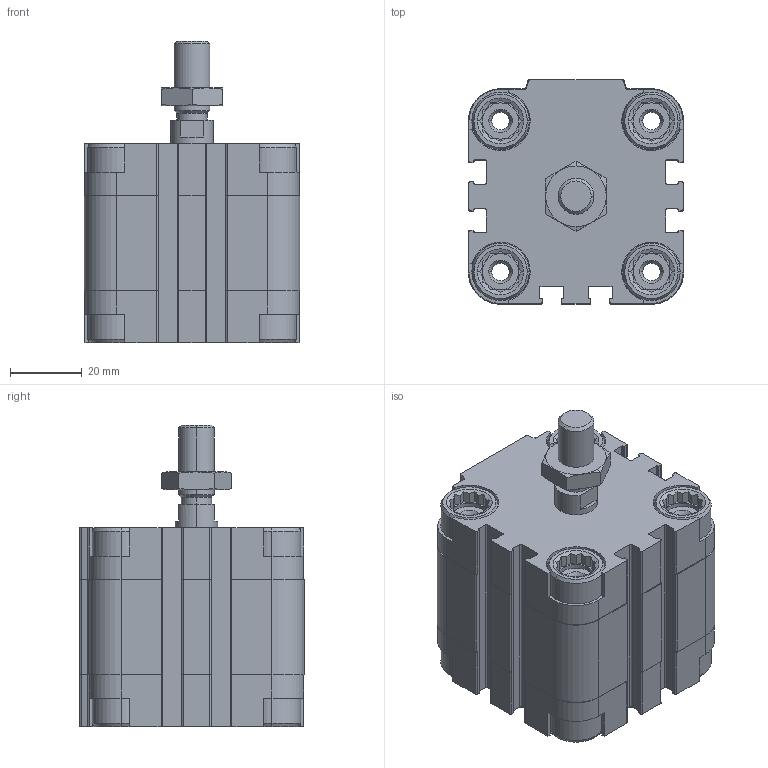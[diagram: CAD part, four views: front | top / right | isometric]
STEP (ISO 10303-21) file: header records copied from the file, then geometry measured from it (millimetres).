
FILE_DESCRIPTION (( 'STEP AP203' ), '1' );
FILE_NAME ('CDVU40-10.STEP', '2020-03-19T11:34:21', ( '' ), ( '' ), 'SwSTEP 2.0', 'SolidWorks 2019', '' );
FILE_SCHEMA (( 'CONFIG_CONTROL_DESIGN' ));
Length unit declared in the file: millimetre
Products named in the file (1): CDVU40-10
Bounding box: 60 x 62.5 x 84 mm (x, y, z)
Volume: 167377.8 mm3; surface area: 44184.6 mm2
Topology: 3 solids, 3 shells, 727 faces, 1932 edges, 1246 vertices
Faces by surface type: plane 425, cylinder 232, cone 70
Entity records: 22975 total; most frequent: CARTESIAN_POINT 4762, ORIENTED_EDGE 3856, DIRECTION 3712, EDGE_CURVE 1928, AXIS2_PLACEMENT_3D 1260, VERTEX_POINT 1246, LINE 1192, VECTOR 1192
